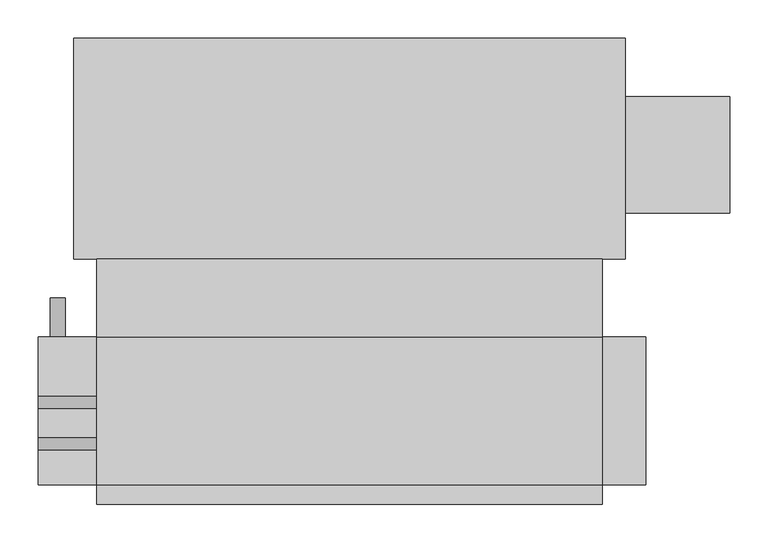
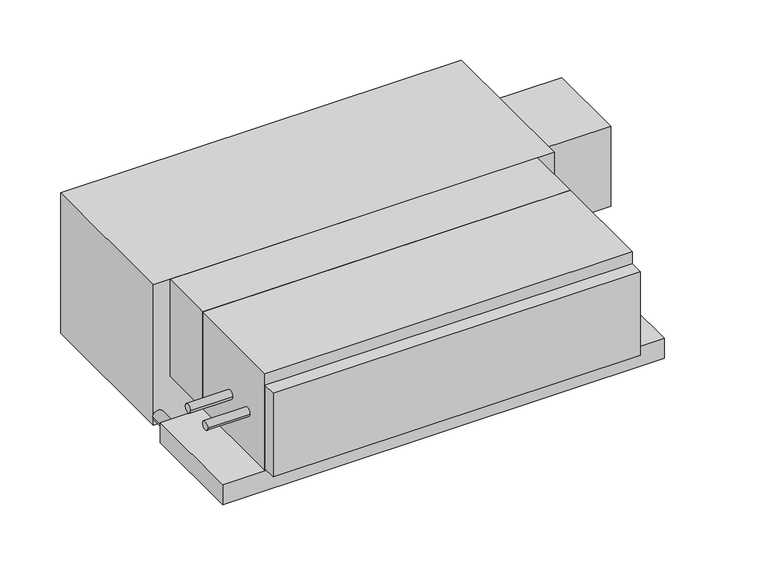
"""IFC4 building model written with IfcOpenShell, lengths in millimetres: proxy geometry, Concealed_Horizontal_Fan_Coil_Unit_With_Plenum_-_42CEA_-_CARRIER_-_2-Pipe_Cool-EHeat_LH_2022 : Size 04 - 277v/60Hz/1Ph - 4 Row 3.0kW."""

from ifc_helpers import new_model, si_unit, point, frame, frame_2d, origin, place, context, project, spatial, polyline, circle_curve, trimmed, segment, composite_curve, outline, extrude, source, transform, mapped, element, save


def mechanical_equipment_7525bac5(model_context):
    return source(origin(), model_context, "Body", "SweptSolid", [
        extrude(outline(composite_curve([segment(trimmed(circle_curve(frame_2d((-280.9875, -104.775)), 7.9375), [point((-288.925, -104.775))], [point((-273.05, -104.775))], False, "CARTESIAN"), True, "CONTINUOUS"), segment(trimmed(circle_curve(frame_2d((-280.9875, -104.775)), 7.9375), [point((-273.05, -104.775))], [point((-288.925, -104.775))], False, "CARTESIAN"), True, "CONTINUOUS")], self_intersect=False)), frame((-254.0, 0.0, 0.0), z_axis=(1.0, 0.0, 0.0), x_axis=(0.0, 1.0, 0.0)), (0.0, 0.0, 1.0), 76.2),
        extrude(outline(composite_curve([segment(trimmed(circle_curve(frame_2d((-227.0125, -104.775)), 7.9375), [point((-234.95, -104.775))], [point((-219.075, -104.775))], False, "CARTESIAN"), True, "CONTINUOUS"), segment(trimmed(circle_curve(frame_2d((-227.0125, -104.775)), 7.9375), [point((-219.075, -104.775))], [point((-234.95, -104.775))], False, "CARTESIAN"), True, "CONTINUOUS")], self_intersect=False)), frame((-254.0, 0.0, 0.0), z_axis=(1.0, 0.0, 0.0), x_axis=(0.0, 1.0, 0.0)), (0.0, 0.0, 1.0), 76.2),
        extrude(outline(composite_curve([segment(trimmed(circle_curve(frame_2d((-209.55, -228.6)), 9.525), [point((-209.55, -238.125))], [point((-209.55, -219.075))], False, "CARTESIAN"), True, "CONTINUOUS"), segment(trimmed(circle_curve(frame_2d((-209.55, -228.6)), 9.525), [point((-209.55, -219.075))], [point((-209.55, -238.125))], False, "CARTESIAN"), True, "CONTINUOUS")], self_intersect=False)), frame((0.0, -141.2875, 0.0), z_axis=(0.0, 1.0, 0.0), x_axis=(0.0, 0.0, 1.0)), (0.0, 0.0, 1.0), 50.8),
        extrude(outline(polyline([(-177.8, -39.6875), (482.6, -39.6875), (482.6, -141.2875), (-177.8, -141.2875), (-177.8, -39.6875)])), frame((0.0, 0.0, -184.15), z_axis=(0.0, 0.0, 1.0), x_axis=(1.0, 0.0, 0.0)), (0.0, 0.0, 1.0), 184.15),
        extrude(outline(polyline([(482.6, -360.3625), (-177.8, -360.3625), (-177.8, -334.9625), (482.6, -334.9625), (482.6, -360.3625)])), frame((0.0, 0.0, -180.975), z_axis=(0.0, 0.0, 1.0), x_axis=(1.0, 0.0, 0.0)), (0.0, 0.0, 1.0), 158.75),
        extrude(outline(polyline([(649.2875, 173.0375), (649.2875, 20.6375), (512.7625, 20.6375), (512.7625, 173.0375), (649.2875, 173.0375)])), frame((0.0, 0.0, -187.325), z_axis=(0.0, 0.0, 1.0), x_axis=(1.0, 0.0, 0.0)), (0.0, 0.0, 1.0), 152.4),
        extrude(outline(polyline([(-207.9625, 249.2375), (512.7625, 249.2375), (512.7625, -39.6875), (-207.9625, -39.6875), (-207.9625, 249.2375)])), frame((0.0, 0.0, -266.7), z_axis=(0.0, 0.0, 1.0), x_axis=(1.0, 0.0, 0.0)), (0.0, 0.0, 1.0), 266.7),
        extrude(outline(polyline([(482.6, -141.2875), (482.6, -334.9625), (-177.8, -334.9625), (-177.8, -141.2875), (482.6, -141.2875)])), frame((0.0, 0.0, -184.15), z_axis=(0.0, 0.0, 1.0), x_axis=(1.0, 0.0, 0.0)), (0.0, 0.0, 1.0), 184.15),
        extrude(outline(polyline([(539.75, -141.2875), (539.75, -334.9625), (-254.0, -334.9625), (-254.0, -141.2875), (539.75, -141.2875)])), frame((0.0, 0.0, -222.25), z_axis=(0.0, 0.0, 1.0), x_axis=(1.0, 0.0, 0.0)), (0.0, 0.0, 1.0), 38.1),
    ])


if __name__ == "__main__":
    model = new_model("IFC4")
    model_context = context("Model", 3, world=origin())
    ifc_project = project(units=[si_unit("LENGTHUNIT", "METRE", prefix="MILLI")], contexts=[model_context])
    site = spatial("IfcSite", under=ifc_project)
    building = spatial("IfcBuilding", under=site)
    placement = place(None, origin())
    mechanical_equipment_shape = mechanical_equipment_7525bac5(model_context)
    element("IfcBuildingElementProxy", 1, Name="Concealed_Horizontal_Fan_Coil_Unit_With_Plenum_-_42CEA_-_CARRIER_-_2-Pipe_Cool-EHeat_LH_2022 : Size 04 - 277v/60Hz/1Ph - 4 Row 3.0kW", ObjectType="Concealed_Horizontal_Fan_Coil_Unit_With_Plenum_-_42CEA_-_CARRIER_-_2-Pipe_Cool-EHeat_LH_2022 : Size 04 - 277v/60Hz/1Ph - 4 Row 3.0kW", at=placement, inside=building, context=model_context, shape_type="MappedRepresentation", body=[
        mapped(mechanical_equipment_shape, transform((0.0, 0.0, 0.0), x_axis=(1.0, 0.0, 0.0), y_axis=(0.0, 1.0, 0.0), z_axis=(0.0, 0.0, 1.0))),
    ])
    save(model, "model.ifc")
